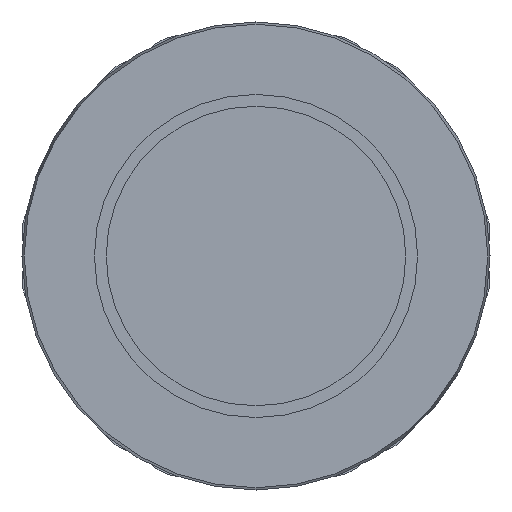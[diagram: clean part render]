
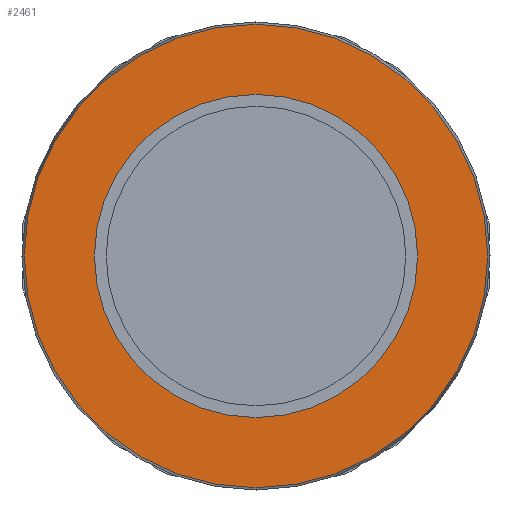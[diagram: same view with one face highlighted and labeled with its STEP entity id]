
A CAD part, front view. The second image highlights one B-rep face of the part: STEP entity #2461.
In plain terms, the highlighted planar face has unit normal (0, -1, 0).
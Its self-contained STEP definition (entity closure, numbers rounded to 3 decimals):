
#2427=CARTESIAN_POINT('',(-13.7,-28.575,0.0));
#2428=VERTEX_POINT('',#2427);
#2429=CARTESIAN_POINT('',(0.0,-28.575,0.0));
#2430=DIRECTION('',(0.0,1.0,0.0));
#2431=DIRECTION('',(-1.0,0.0,0.0));
#2432=AXIS2_PLACEMENT_3D('',#2429,#2430,#2431);
#2433=CIRCLE('',#2432,13.7);
#2434=EDGE_CURVE('',#2428,#2428,#2433,.T.);
#2442=CARTESIAN_POINT('',(-16.675,-28.575,0.0));
#2443=DIRECTION('',(0.0,-1.0,0.0));
#2444=DIRECTION('',(0.0,0.0,-1.0));
#2445=AXIS2_PLACEMENT_3D('',#2442,#2443,#2444);
#2446=PLANE('',#2445);
#2447=CARTESIAN_POINT('',(-19.65,-28.575,0.0));
#2448=VERTEX_POINT('',#2447);
#2449=CARTESIAN_POINT('',(0.0,-28.575,0.0));
#2450=DIRECTION('',(0.0,1.0,0.0));
#2451=DIRECTION('',(-1.0,0.0,0.0));
#2452=AXIS2_PLACEMENT_3D('',#2449,#2450,#2451);
#2453=CIRCLE('',#2452,19.65);
#2454=EDGE_CURVE('',#2448,#2448,#2453,.T.);
#2455=ORIENTED_EDGE('',*,*,#2454,.F.);
#2456=EDGE_LOOP('',(#2455));
#2457=FACE_OUTER_BOUND('',#2456,.T.);
#2458=ORIENTED_EDGE('',*,*,#2434,.T.);
#2459=EDGE_LOOP('',(#2458));
#2460=FACE_BOUND('',#2459,.T.);
#2461=ADVANCED_FACE('',(#2457,#2460),#2446,.T.);
